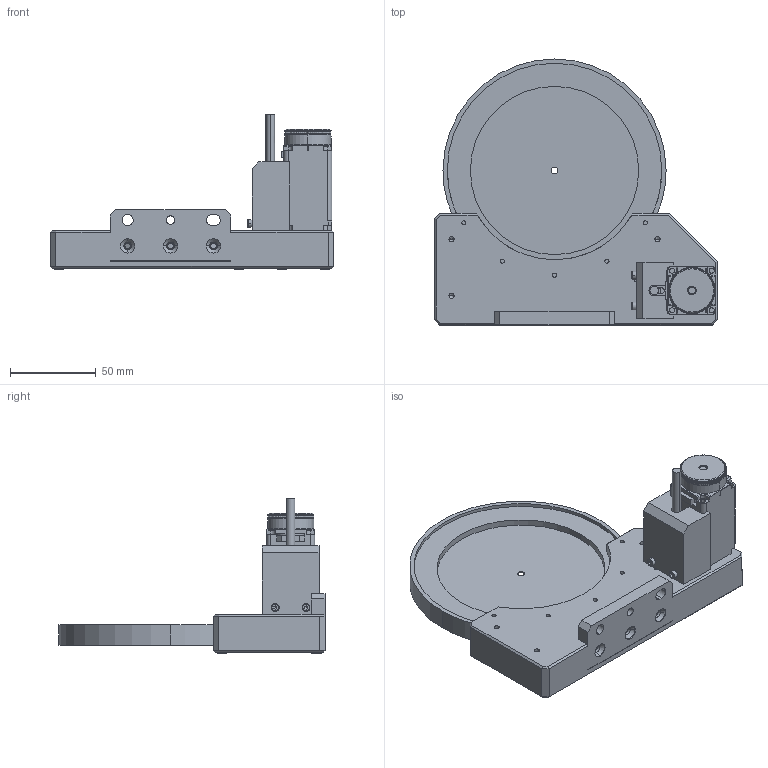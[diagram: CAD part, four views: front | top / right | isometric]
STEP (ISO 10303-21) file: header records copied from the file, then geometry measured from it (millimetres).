
FILE_DESCRIPTION (( 'STEP AP203' ), '1' );
FILE_NAME ('8MID98-4.STEP', '2011-04-04T11:03:31', ( 'Romas' ), ( '' ), 'SwSTEP 2.0', 'SolidWorks 2003240', '' );
FILE_SCHEMA (( 'CONFIG_CONTROL_DESIGN' ));
Products named in the file (1): 8MID98-4
Bounding box: 165 x 155 x 90.79 mm (x, y, z)
Volume: 228232.9 mm3; surface area: 103113.5 mm2
Topology: 1 solids, 13 shells, 1380 faces, 3612 edges, 2292 vertices
Faces by surface type: cylinder 679, plane 604, cone 69, bspline 28
Entity records: 44184 total; most frequent: CARTESIAN_POINT 9884, DIRECTION 7358, ORIENTED_EDGE 7156, EDGE_CURVE 3578, AXIS2_PLACEMENT_3D 2760, VERTEX_POINT 2292, VECTOR 1838, LINE 1838
